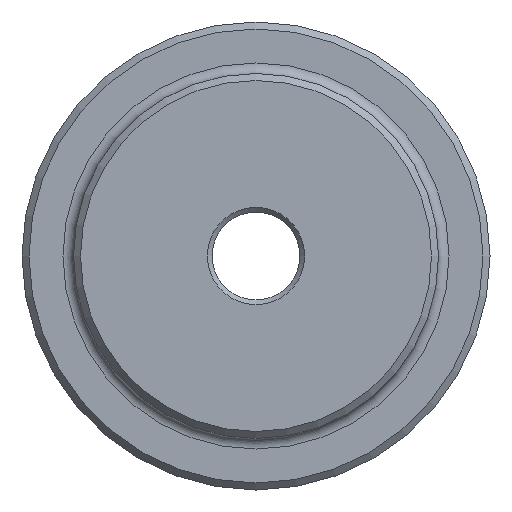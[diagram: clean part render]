
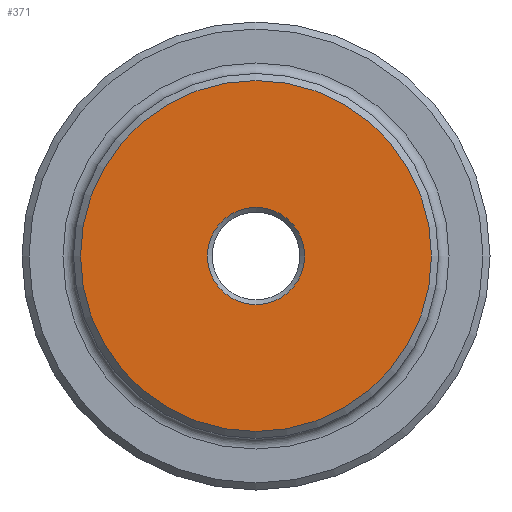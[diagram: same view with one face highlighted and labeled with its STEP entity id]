
A CAD part, left-side view. The second image highlights one B-rep face of the part: STEP entity #371.
In plain terms, the highlighted planar face has unit normal (-1, 0, 0).
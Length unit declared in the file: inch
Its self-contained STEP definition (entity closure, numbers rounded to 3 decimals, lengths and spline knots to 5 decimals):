
#32 = AXIS2_PLACEMENT_3D ( 'NONE', #899, #1458, #336 ) ;
#34 = CARTESIAN_POINT ( 'NONE',  ( 0., 0., 0. ) ) ;
#111 = CARTESIAN_POINT ( 'NONE',  ( 0., 0., 0. ) ) ;
#149 = ORIENTED_EDGE ( 'NONE', *, *, #437, .T. ) ;
#204 = DIRECTION ( 'NONE',  ( 1., 0., 0. ) ) ;
#255 = EDGE_LOOP ( 'NONE', ( #149 ) ) ;
#336 = DIRECTION ( 'NONE',  ( 0., 0., -1. ) ) ;
#371 = ADVANCED_FACE ( 'NONE', ( #1804, #1005 ), #1432, .F. ) ;
#437 = EDGE_CURVE ( 'NONE', #1159, #1159, #458, .T. ) ;
#458 = CIRCLE ( 'NONE', #1507, 1.5 ) ;
#656 = EDGE_CURVE ( 'NONE', #838, #838, #667, .T. ) ;
#667 = CIRCLE ( 'NONE', #32, 0.41515 ) ;
#763 = DIRECTION ( 'NONE',  ( -1., 0., 0. ) ) ;
#838 = VERTEX_POINT ( 'NONE', #1322 ) ;
#869 = AXIS2_PLACEMENT_3D ( 'NONE', #111, #204, #1524 ) ;
#899 = CARTESIAN_POINT ( 'NONE',  ( 0., 0., 0. ) ) ;
#1005 = FACE_OUTER_BOUND ( 'NONE', #255, .T. ) ;
#1089 = DIRECTION ( 'NONE',  ( 0., 0., -1. ) ) ;
#1132 = ORIENTED_EDGE ( 'NONE', *, *, #656, .T. ) ;
#1159 = VERTEX_POINT ( 'NONE', #1259 ) ;
#1259 = CARTESIAN_POINT ( 'NONE',  ( 0., 0., -1.5 ) ) ;
#1322 = CARTESIAN_POINT ( 'NONE',  ( 0., 0., -0.41515 ) ) ;
#1432 = PLANE ( 'NONE',  #869 ) ;
#1458 = DIRECTION ( 'NONE',  ( 1., 0., 0. ) ) ;
#1507 = AXIS2_PLACEMENT_3D ( 'NONE', #34, #763, #1089 ) ;
#1524 = DIRECTION ( 'NONE',  ( 0., 0., -1. ) ) ;
#1651 = EDGE_LOOP ( 'NONE', ( #1132 ) ) ;
#1804 = FACE_BOUND ( 'NONE', #1651, .T. ) ;
